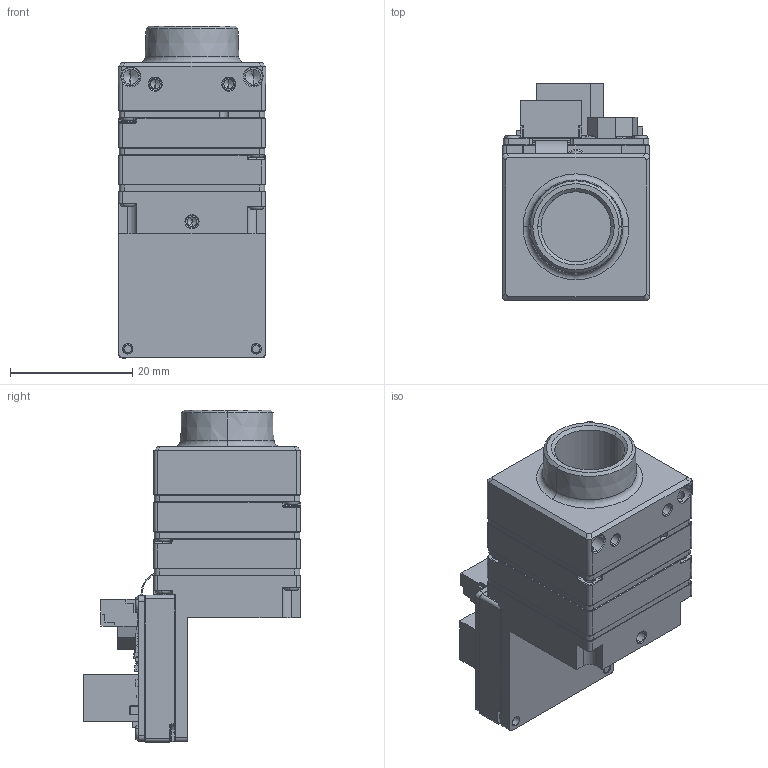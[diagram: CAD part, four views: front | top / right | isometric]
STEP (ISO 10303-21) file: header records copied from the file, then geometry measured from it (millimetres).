
FILE_DESCRIPTION (( 'STEP AP203' ), '1' );
FILE_NAME ('434-018-B_IX_90.STEP', '2025-04-21T19:19:42', ( '' ), ( '' ), 'SwSTEP 2.0', 'SolidWorks 2021', '' );
FILE_SCHEMA (( 'CONFIG_CONTROL_DESIGN' ));
Length unit declared in the file: millimetre
Products named in the file (1): 434-018-B_IX_90
Bounding box: 24.13 x 35.5 x 54.3 mm (x, y, z)
Volume: 11532 mm3; surface area: 18125.3 mm2
Topology: 73 solids, 73 shells, 4658 faces, 11975 edges, 7362 vertices
Faces by surface type: plane 2681, cylinder 1185, cone 304, bspline 292, torus 132, sphere 64
Entity records: 144056 total; most frequent: CARTESIAN_POINT 32592, ORIENTED_EDGE 23546, DIRECTION 22514, EDGE_CURVE 11773, VECTOR 8372, LINE 8372, VERTEX_POINT 7358, AXIS2_PLACEMENT_3D 7071
